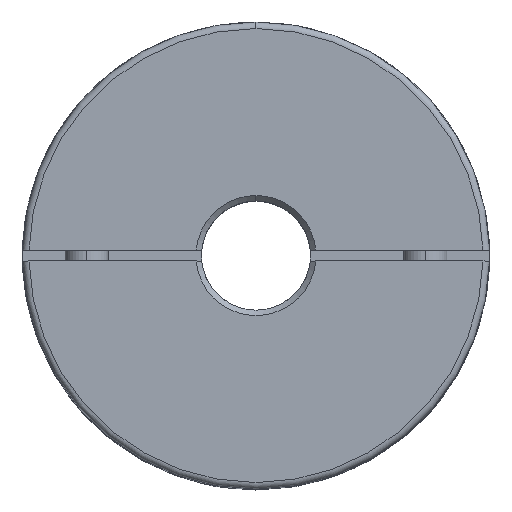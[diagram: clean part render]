
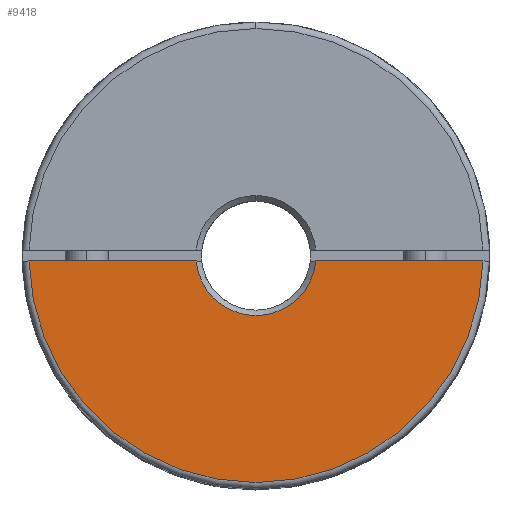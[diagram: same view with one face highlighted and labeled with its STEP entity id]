
A CAD part, top view. The second image highlights one B-rep face of the part: STEP entity #9418.
In plain terms, the highlighted planar face has unit normal (0, 0, 1).
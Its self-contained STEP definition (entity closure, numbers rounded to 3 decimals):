
#1340 = CARTESIAN_POINT ( 'NONE',  ( 0., 0., 24.15 ) ) ;
#1342 = PLANE ( 'NONE',  #9031 ) ;
#1345 = DIRECTION ( 'NONE',  ( 0., 0., 1. ) ) ;
#1346 = DIRECTION ( 'NONE',  ( 0., 1., 0. ) ) ;
#2959 = CARTESIAN_POINT ( 'NONE',  ( 5.477, -0.5, 24.15 ) ) ;
#3053 = CARTESIAN_POINT ( 'NONE',  ( -20.794, -0.5, 24.15 ) ) ;
#3063 = CARTESIAN_POINT ( 'NONE',  ( 20.794, -0.5, 24.15 ) ) ;
#3177 = CARTESIAN_POINT ( 'NONE',  ( -5.477, -0.5, 24.15 ) ) ;
#5985 = FACE_OUTER_BOUND ( 'NONE', #7096, .T. ) ;
#7053 = CARTESIAN_POINT ( 'NONE',  ( 0., 0., 24.15 ) ) ;
#7068 = DIRECTION ( 'NONE',  ( 0., 1., 0. ) ) ;
#7069 = DIRECTION ( 'NONE',  ( 0., 0., 1. ) ) ;
#7096 = EDGE_LOOP ( 'NONE', ( #12387, #12425, #12259, #12427 ) ) ;
#7774 = EDGE_CURVE ( 'NONE', #12989, #13144, #10696, .T. ) ;
#7786 = EDGE_CURVE ( 'NONE', #12989, #13367, #10714, .T. ) ;
#7787 = EDGE_CURVE ( 'NONE', #13131, #13367, #10708, .T. ) ;
#7802 = EDGE_CURVE ( 'NONE', #13131, #13144, #10729, .T. ) ;
#8287 = AXIS2_PLACEMENT_3D ( 'NONE', #10933, #10940, #10942 ) ;
#8293 = AXIS2_PLACEMENT_3D ( 'NONE', #7053, #7069, #7068 ) ;
#9031 = AXIS2_PLACEMENT_3D ( 'NONE', #1340, #1345, #1346 ) ;
#9418 = ADVANCED_FACE ( 'NONE', ( #5985 ), #1342, .T. ) ;
#10696 = LINE ( 'NONE', #10974, #10699 ) ;
#10699 = VECTOR ( 'NONE', #10973, 1000. ) ;
#10708 = LINE ( 'NONE', #10941, #10718 ) ;
#10714 = CIRCLE ( 'NONE', #8287, 5.5 ) ;
#10718 = VECTOR ( 'NONE', #10950, 1000. ) ;
#10729 = CIRCLE ( 'NONE', #8293, 20.8 ) ;
#10933 = CARTESIAN_POINT ( 'NONE',  ( 0., 0., 24.15 ) ) ;
#10940 = DIRECTION ( 'NONE',  ( 0., 0., -1. ) ) ;
#10941 = CARTESIAN_POINT ( 'NONE',  ( -21.4, -0.5, 24.15 ) ) ;
#10942 = DIRECTION ( 'NONE',  ( 0., 1., 0. ) ) ;
#10950 = DIRECTION ( 'NONE',  ( 1., 0., 0. ) ) ;
#10973 = DIRECTION ( 'NONE',  ( 1., 0., 0. ) ) ;
#10974 = CARTESIAN_POINT ( 'NONE',  ( -21.4, -0.5, 24.15 ) ) ;
#12259 = ORIENTED_EDGE ( 'NONE', *, *, #7774, .F. ) ;
#12387 = ORIENTED_EDGE ( 'NONE', *, *, #7787, .F. ) ;
#12425 = ORIENTED_EDGE ( 'NONE', *, *, #7802, .T. ) ;
#12427 = ORIENTED_EDGE ( 'NONE', *, *, #7786, .T. ) ;
#12989 = VERTEX_POINT ( 'NONE', #2959 ) ;
#13131 = VERTEX_POINT ( 'NONE', #3053 ) ;
#13144 = VERTEX_POINT ( 'NONE', #3063 ) ;
#13367 = VERTEX_POINT ( 'NONE', #3177 ) ;
